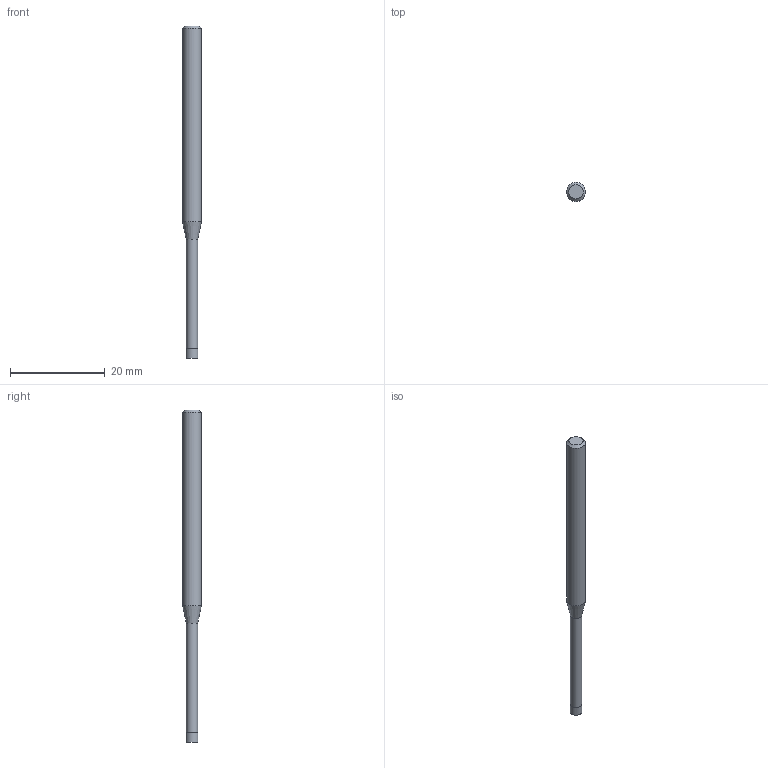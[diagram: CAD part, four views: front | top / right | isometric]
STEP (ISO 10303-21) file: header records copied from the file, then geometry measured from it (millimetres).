
FILE_DESCRIPTION((''),'2;1');
FILE_NAME('C:\Users\nsx150\AppData\Local\Temp\Mastercam 2021\3SYKECWX22\TEMP.step','2021-04-22T09:39:32',(''),(''),'STEP Write','Mastercam 2021 ... CNC Software, Inc.','');
FILE_SCHEMA(('AUTOMOTIVE_DESIGN'));
Length unit declared in the file: millimetre
Products named in the file (1): None
Bounding box: 4 x 4 x 70 mm (x, y, z)
Volume: 661.5 mm3; surface area: 768.9 mm2
Topology: 2 solids, 2 shells, 9 faces, 12 edges, 7 vertices
Faces by surface type: plane 4, cylinder 3, cone 2
Full cylindrical faces by diameter (mm): 2.4 x1, 2.5 x1, 4 x1
Entity records: 211 total; most frequent: DIRECTION 36, CARTESIAN_POINT 25, AXIS2_PLACEMENT_3D 18, ORIENTED_EDGE 14, EDGE_LOOP 14, STYLED_ITEM 12, ADVANCED_FACE 9, FACE_BOUND 8
